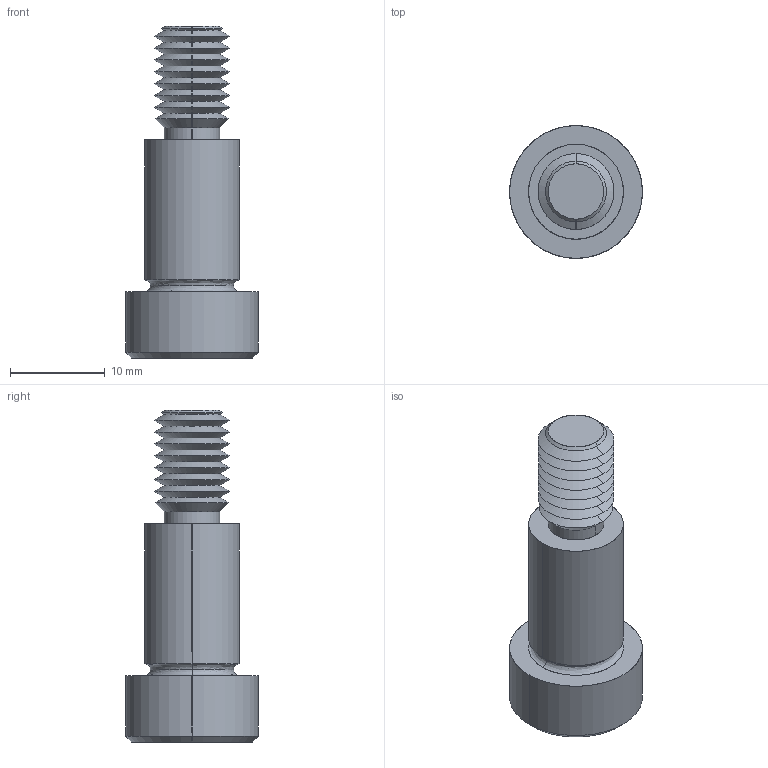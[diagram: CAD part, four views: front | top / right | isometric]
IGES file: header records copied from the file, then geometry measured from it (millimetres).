
Start section: SolidWorks IGES file using analytic representation for surfaces
Global section: file name: C:\Users\IanO\Documents\Temp Folder\GENERAL\SCREW REVISION\P0130_v2\P0130.T5_v2_20220106_IGES\P0130.100-016-T5.igs; native system: SolidWorks 2019; preprocessor: SolidWorks 2019; author: IanO; date: 220106.224141; units: millimetre
Bounding box: 14 x 14 x 35 mm (x, y, z)
Surface area: 1679.3 mm2 (no closed solid volume)
Topology: 0 solids, 0 shells, 72 faces, 548 edges, 546 vertices
Faces by surface type: revolution 52, bspline 20
